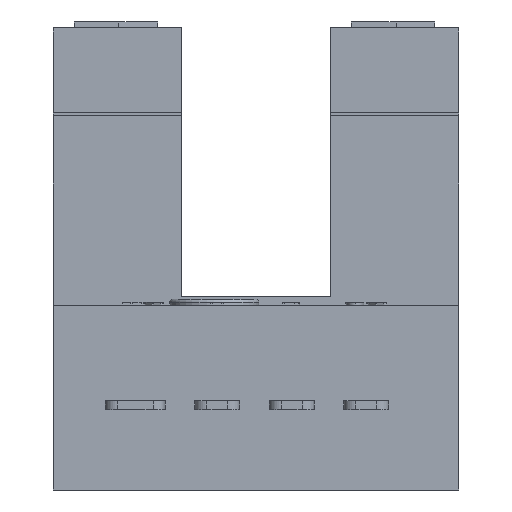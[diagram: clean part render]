
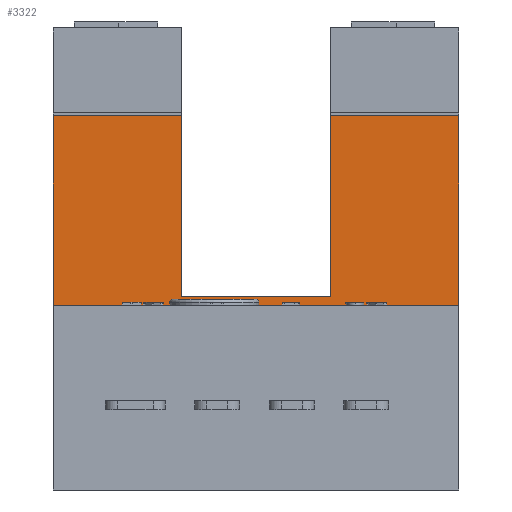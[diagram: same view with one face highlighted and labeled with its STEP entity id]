
A CAD part, front view. The second image highlights one B-rep face of the part: STEP entity #3322.
In plain terms, the highlighted planar face has unit normal (0, -1, 0).
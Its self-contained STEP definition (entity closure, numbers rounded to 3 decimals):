
#34 = VECTOR ( 'NONE', #4217, 1000. ) ;
#235 = VECTOR ( 'NONE', #2244, 1000. ) ;
#279 = EDGE_CURVE ( 'NONE', #3918, #4377, #3418, .T. ) ;
#302 = CARTESIAN_POINT ( 'NONE',  ( 9.3, -13.95, 12.55 ) ) ;
#844 = EDGE_CURVE ( 'NONE', #4305, #5369, #6335, .T. ) ;
#923 = VERTEX_POINT ( 'NONE', #4238 ) ;
#975 = CARTESIAN_POINT ( 'NONE',  ( 4.3, -13.95, 6.5 ) ) ;
#1016 = ORIENTED_EDGE ( 'NONE', *, *, #5546, .F. ) ;
#1451 = DIRECTION ( 'NONE',  ( -1., 0., 0. ) ) ;
#1502 = DIRECTION ( 'NONE',  ( 1., 0., 0. ) ) ;
#1581 = LINE ( 'NONE', #975, #235 ) ;
#1674 = DIRECTION ( 'NONE',  ( 0., 0., 1. ) ) ;
#1754 = VECTOR ( 'NONE', #1451, 1000. ) ;
#1840 = VECTOR ( 'NONE', #6980, 1000. ) ;
#2073 = DIRECTION ( 'NONE',  ( 0., 1., 0. ) ) ;
#2170 = ORIENTED_EDGE ( 'NONE', *, *, #5025, .F. ) ;
#2225 = LINE ( 'NONE', #4684, #5480 ) ;
#2241 = CARTESIAN_POINT ( 'NONE',  ( 13.6, -13.95, 6.2 ) ) ;
#2244 = DIRECTION ( 'NONE',  ( 1., 0., 0. ) ) ;
#2619 = CARTESIAN_POINT ( 'NONE',  ( 9.3, -13.95, 6.5 ) ) ;
#2686 = CARTESIAN_POINT ( 'NONE',  ( 13.6, -13.95, 6.2 ) ) ;
#3127 = LINE ( 'NONE', #2241, #5884 ) ;
#3128 = FACE_OUTER_BOUND ( 'NONE', #6371, .T. ) ;
#3144 = CARTESIAN_POINT ( 'NONE',  ( 4.3, -13.95, 6.5 ) ) ;
#3182 = EDGE_CURVE ( 'NONE', #6101, #4505, #6167, .T. ) ;
#3322 = ADVANCED_FACE ( 'NONE', ( #3128 ), #5573, .F. ) ;
#3418 = LINE ( 'NONE', #6939, #1754 ) ;
#3604 = DIRECTION ( 'NONE',  ( 1., 0., 0. ) ) ;
#3624 = ORIENTED_EDGE ( 'NONE', *, *, #3182, .T. ) ;
#3904 = CARTESIAN_POINT ( 'NONE',  ( 0., -13.95, 6.2 ) ) ;
#3918 = VERTEX_POINT ( 'NONE', #2686 ) ;
#4113 = ORIENTED_EDGE ( 'NONE', *, *, #5502, .F. ) ;
#4217 = DIRECTION ( 'NONE',  ( 1., 0., 0. ) ) ;
#4238 = CARTESIAN_POINT ( 'NONE',  ( 0., -13.95, 12.55 ) ) ;
#4305 = VERTEX_POINT ( 'NONE', #4357 ) ;
#4357 = CARTESIAN_POINT ( 'NONE',  ( 9.3, -13.95, 6.5 ) ) ;
#4377 = VERTEX_POINT ( 'NONE', #7489 ) ;
#4505 = VERTEX_POINT ( 'NONE', #6597 ) ;
#4673 = LINE ( 'NONE', #7274, #5594 ) ;
#4684 = CARTESIAN_POINT ( 'NONE',  ( 0., -13.95, 6.2 ) ) ;
#4693 = ORIENTED_EDGE ( 'NONE', *, *, #279, .F. ) ;
#4960 = ORIENTED_EDGE ( 'NONE', *, *, #844, .F. ) ;
#5025 = EDGE_CURVE ( 'NONE', #4377, #923, #2225, .T. ) ;
#5181 = DIRECTION ( 'NONE',  ( 0., 0., 1. ) ) ;
#5369 = VERTEX_POINT ( 'NONE', #302 ) ;
#5412 = EDGE_CURVE ( 'NONE', #6101, #4305, #1581, .T. ) ;
#5444 = CARTESIAN_POINT ( 'NONE',  ( 13.6, -13.95, 12.55 ) ) ;
#5480 = VECTOR ( 'NONE', #5181, 1000. ) ;
#5502 = EDGE_CURVE ( 'NONE', #5369, #7739, #5793, .T. ) ;
#5546 = EDGE_CURVE ( 'NONE', #923, #4505, #4673, .T. ) ;
#5573 = PLANE ( 'NONE',  #6537 ) ;
#5594 = VECTOR ( 'NONE', #3604, 1000. ) ;
#5793 = LINE ( 'NONE', #7861, #34 ) ;
#5884 = VECTOR ( 'NONE', #1674, 1000. ) ;
#6101 = VERTEX_POINT ( 'NONE', #7277 ) ;
#6167 = LINE ( 'NONE', #3144, #6929 ) ;
#6194 = ORIENTED_EDGE ( 'NONE', *, *, #5412, .F. ) ;
#6279 = ORIENTED_EDGE ( 'NONE', *, *, #6663, .T. ) ;
#6335 = LINE ( 'NONE', #2619, #1840 ) ;
#6371 = EDGE_LOOP ( 'NONE', ( #4113, #4960, #6194, #3624, #1016, #2170, #4693, #6279 ) ) ;
#6537 = AXIS2_PLACEMENT_3D ( 'NONE', #3904, #2073, #1502 ) ;
#6597 = CARTESIAN_POINT ( 'NONE',  ( 4.3, -13.95, 12.55 ) ) ;
#6663 = EDGE_CURVE ( 'NONE', #3918, #7739, #3127, .T. ) ;
#6819 = DIRECTION ( 'NONE',  ( 0., 0., 1. ) ) ;
#6929 = VECTOR ( 'NONE', #6819, 1000. ) ;
#6939 = CARTESIAN_POINT ( 'NONE',  ( 0., -13.95, 6.2 ) ) ;
#6980 = DIRECTION ( 'NONE',  ( 0., 0., 1. ) ) ;
#7274 = CARTESIAN_POINT ( 'NONE',  ( 0., -13.95, 12.55 ) ) ;
#7277 = CARTESIAN_POINT ( 'NONE',  ( 4.3, -13.95, 6.5 ) ) ;
#7489 = CARTESIAN_POINT ( 'NONE',  ( 0., -13.95, 6.2 ) ) ;
#7739 = VERTEX_POINT ( 'NONE', #5444 ) ;
#7861 = CARTESIAN_POINT ( 'NONE',  ( 9.3, -13.95, 12.55 ) ) ;
